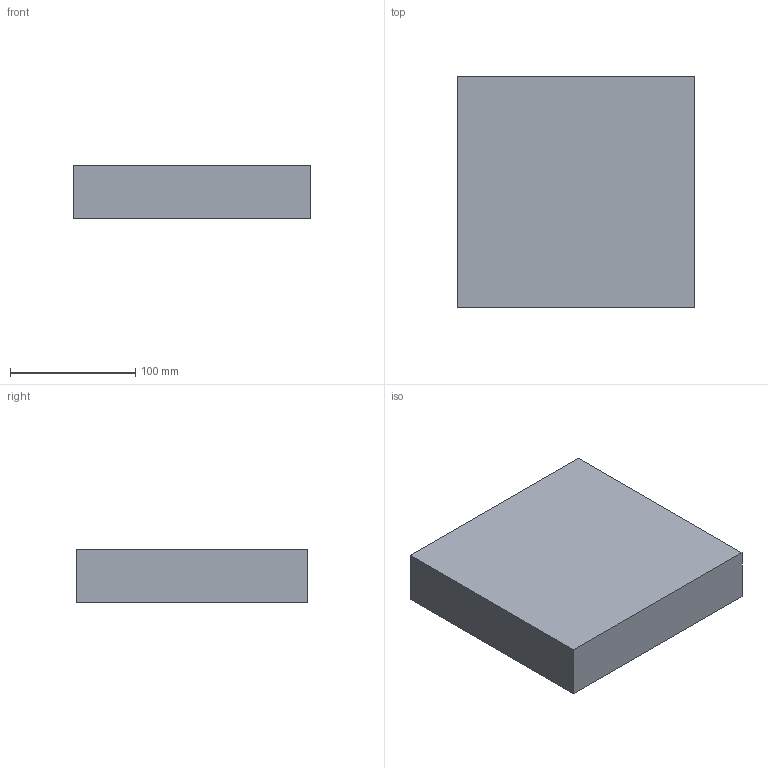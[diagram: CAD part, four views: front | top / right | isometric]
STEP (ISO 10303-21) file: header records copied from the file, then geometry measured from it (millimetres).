
FILE_DESCRIPTION(/* description */ (''),/* implementation_level */ '2;1');
FILE_NAME(/* name */ 'MiniPC.step',/* time_stamp */ '2026-06-27T03:52:17+02:00',/* author */ (''),/* organization */ (''),/* preprocessor_version */ 'ST-DEVELOPER v20.1',/* originating_system */ 'Autodesk Translation Framework v15.8.0.0',/* authorisation */ '');
FILE_SCHEMA (('AUTOMOTIVE_DESIGN { 1 0 10303 214 3 1 1 }'));
Length unit declared in the file: millimetre
Products named in the file (2): 2026-06-27-03-52-17-565; 2026-06-27-03-52-17-565_1
Assembly tree (1 placements, depth 2):
  2026-06-27-03-52-17-565
    2026-06-27-03-52-17-565_1
Bounding box: 190 x 185 x 43 mm (x, y, z)
Volume: 1511450 mm3; surface area: 102550 mm2
Topology: 1 solids, 1 shells, 6 faces, 12 edges, 8 vertices
Faces by surface type: plane 6
Entity records: 216 total; most frequent: DIRECTION 30, CARTESIAN_POINT 29, ORIENTED_EDGE 24, LINE 12, VECTOR 12, EDGE_CURVE 12, AXIS2_PLACEMENT_3D 9, VERTEX_POINT 8
